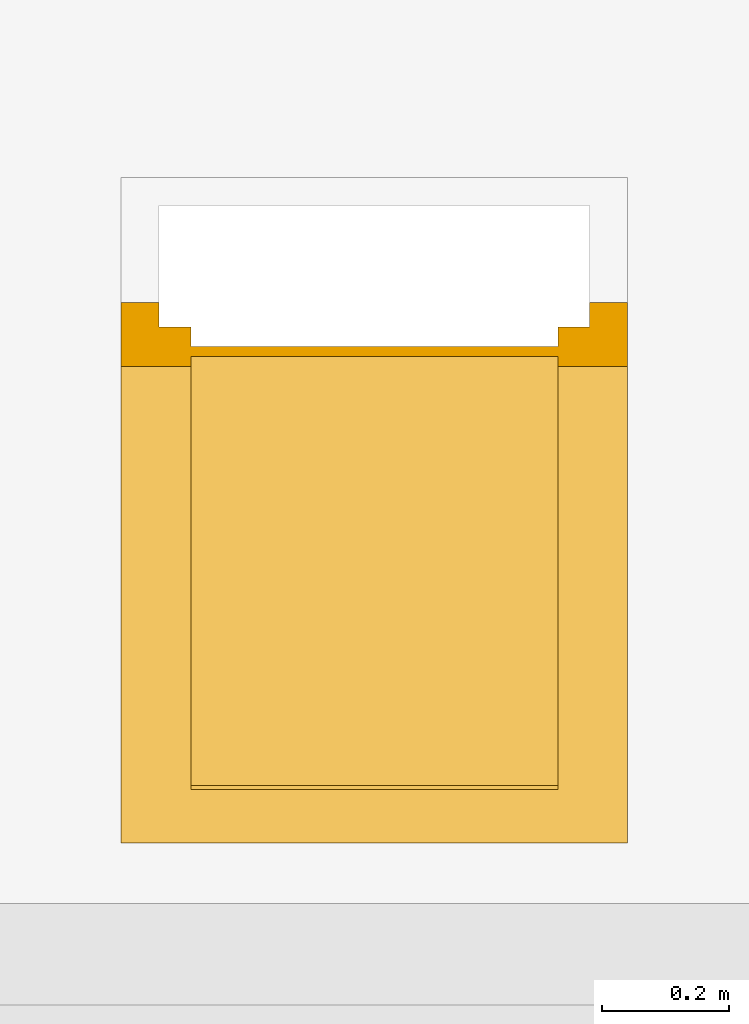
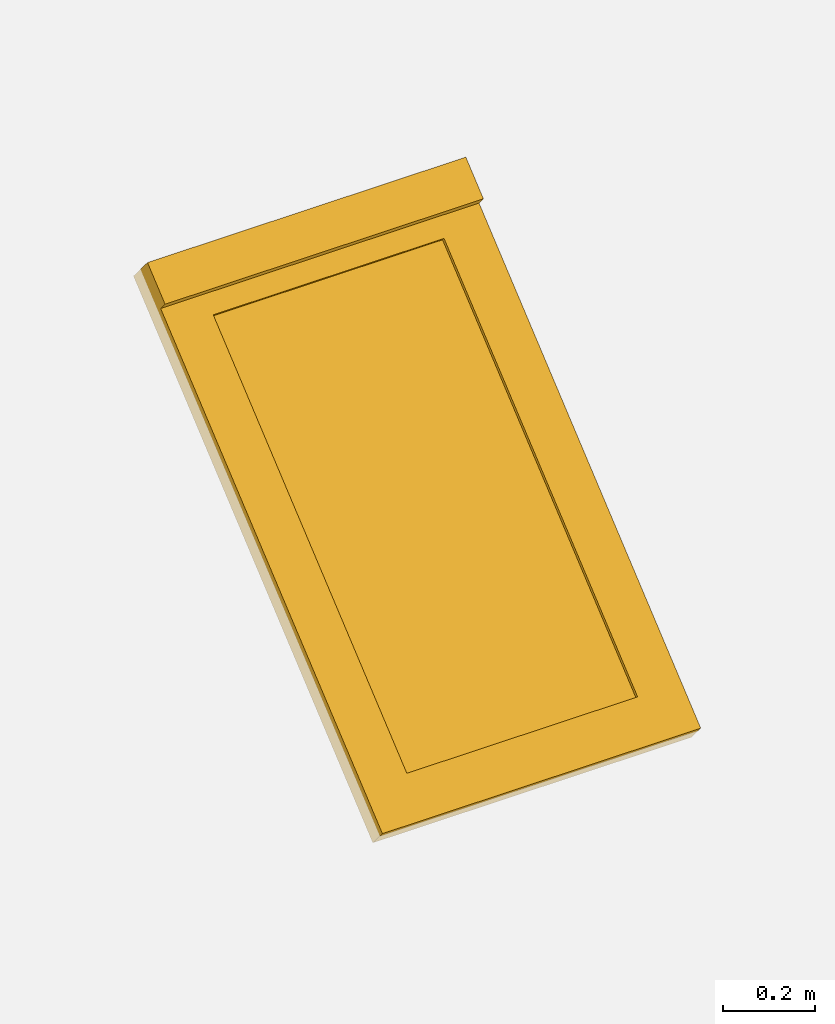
# One storey, part 5 of 5: 1 window.
"""IFC2X3 building model written with IfcOpenShell, lengths in centimetres."""

import ifcopenshell
import ifcopenshell.guid

model = None  # the IFC model being written
_history = None  # IfcOwnerHistory: only IFC2X3 demands one
_inside = {}  # id of a spatial element -> (the spatial element, [elements in it])
_under = {}  # id of a project, library or spatial element -> (it, [spatial elements below it])
_declared = {}  # id of a project -> (the project, [libraries it declares])
_typed = {}  # id of a type object -> (the type object, [elements of that type])
_made_of = {}  # id of a material, layer set ... -> (it, [elements and type objects made of it])


def new_model(schema):
    """Start an empty IFC model of exactly this schema.

    Asked for "IFC4X3", IfcOpenShell would pick the latest addendum, in which some entities
    have other attributes; the version numbers below select the first issue.
    IFC2X3 requires an IfcOwnerHistory on every rooted entity: one is made here for all.
    """
    global model, _history
    if schema == "IFC4X3":
        model = ifcopenshell.file(schema_version=(4, 3, 0, 0))
    else:
        model = ifcopenshell.file(schema=schema)
    _inside.clear()
    _under.clear()
    _declared.clear()
    _typed.clear()
    _made_of.clear()
    _history = None
    if model.schema == "IFC2X3":
        org = make("IfcOrganization", Name="unknown")
        user = make(
            "IfcPersonAndOrganization",
            ThePerson=make("IfcPerson", FamilyName="unknown"),
            TheOrganization=org,
        )
        app = make(
            "IfcApplication",
            ApplicationDeveloper=org,
            Version="unknown",
            ApplicationFullName="unknown",
            ApplicationIdentifier="unknown",
        )
        _history = make(
            "IfcOwnerHistory",
            OwningUser=user,
            OwningApplication=app,
            ChangeAction="ADDED",
            CreationDate=0,
        )
    return model


def make(cls, **values):
    """One entity of the class cls with the attributes given. An attribute that is None is left unset."""
    return model.create_entity(
        cls, **{name: value for name, value in values.items() if value is not None}
    )


def entity(cls, *values):
    """Any entity or typed value of the class cls, its attributes in the order of the schema. None: left unset."""
    e = model.create_entity(cls)
    for i, value in enumerate(values):
        if value is not None:
            e[i] = value
    return e


def rooted(cls, **values):
    """An entity with a GlobalId (a new one), such as an element, a storey or a relation."""
    return make(cls, GlobalId=ifcopenshell.guid.new(), OwnerHistory=_history, **values)


def si_unit(unit_type, name, prefix=None):
    """IfcSIUnit, for example si_unit("LENGTHUNIT", "METRE", prefix="MILLI")."""
    return make("IfcSIUnit", UnitType=unit_type, Prefix=prefix, Name=name)


def converted_unit(unit_type, name, factor, base, dimensions=None, offset=None):
    """IfcConversionBasedUnit, such as the inch: factor (a typed value) times the base unit."""
    return make(
        "IfcConversionBasedUnit"
        if offset is None
        else "IfcConversionBasedUnitWithOffset",
        ConversionOffset=offset,
        Dimensions=None
        if dimensions is None
        else entity("IfcDimensionalExponents", *dimensions),
        UnitType=unit_type,
        Name=name,
        ConversionFactor=make(
            "IfcMeasureWithUnit", ValueComponent=factor, UnitComponent=base
        ),
    )


def derived_unit(unit_type, elements):
    """IfcDerivedUnit: a product of units, each with its exponent."""
    return make(
        "IfcDerivedUnit",
        Elements=[
            make("IfcDerivedUnitElement", Unit=unit, Exponent=power)
            for unit, power in elements
        ],
        UnitType=unit_type,
    )


def assignment(units):
    """IfcUnitAssignment: the units of a project."""
    return None if units is None else make("IfcUnitAssignment", Units=units)


def point(xyz):
    """IfcCartesianPoint."""
    return None if xyz is None else make("IfcCartesianPoint", Coordinates=xyz)


def direction(xyz):
    """IfcDirection."""
    return None if xyz is None else make("IfcDirection", DirectionRatios=xyz)


def frame(location, z_axis=None, x_axis=None):
    """IfcAxis2Placement3D, a coordinate frame: its origin and axes. An axis left out is left unset."""
    return make(
        "IfcAxis2Placement3D",
        Location=point(location),
        Axis=direction(z_axis),
        RefDirection=direction(x_axis),
    )


def origin():
    """The frame at (0, 0, 0) with its axes left unset."""
    return frame((0.0, 0.0, 0.0))


def place(relative_to, where):
    """IfcLocalPlacement: puts the frame where relative to a parent placement (None: the world)."""
    return make(
        "IfcLocalPlacement", PlacementRelTo=relative_to, RelativePlacement=where
    )


def context(
    kind, dimensions, precision=None, world=None, true_north=None, identifier=None
):
    """IfcGeometricRepresentationContext, for example the 3D "Model" context."""
    return make(
        "IfcGeometricRepresentationContext",
        ContextIdentifier=identifier,
        ContextType=kind,
        CoordinateSpaceDimension=dimensions,
        Precision=precision,
        WorldCoordinateSystem=world,
        TrueNorth=true_north,
    )


def subcontext(parent, identifier, kind, view, scale=None):
    """IfcGeometricRepresentationSubContext, for example "Body" below "Model"."""
    return make(
        "IfcGeometricRepresentationSubContext",
        ContextIdentifier=identifier,
        ContextType=kind,
        ParentContext=parent,
        TargetScale=scale,
        TargetView=view,
    )


def project(units=None, contexts=None):
    """IfcProject with its units and contexts."""
    return rooted(
        "IfcProject",
        Name="project",
        RepresentationContexts=contexts,
        UnitsInContext=assignment(units),
    )


def spatial(cls, under=None, at=None, **own):
    """A site, building, storey or space (cls), placed at a placement, below another one or the project."""
    s = rooted(cls, ObjectPlacement=at, **own)
    if under is not None:
        _under.setdefault(under.id(), (under, []))[1].append(s)
    return s


def faces_of(points, faces, orient=None, outer=None):
    """IfcFace entities. A face is a list of loops; a loop is a list of indices into points, from 0.

    orient and outer hold one flag for each loop. By default every Orientation is true, the
    first loop of a face is its IfcFaceOuterBound and the others are IfcFaceBound.
    """
    made = []
    for i, loops in enumerate(faces):
        bounds = []
        for j, loop in enumerate(loops):
            is_outer = j == 0 if outer is None else outer[i][j]
            bounds.append(
                make(
                    "IfcFaceOuterBound" if is_outer else "IfcFaceBound",
                    Bound=make("IfcPolyLoop", Polygon=[points[k] for k in loop]),
                    Orientation=True if orient is None else orient[i][j],
                )
            )
        made.append(make("IfcFace", Bounds=bounds))
    return made


def faceted_brep(points, faces, orient=None, outer=None, voids=None):
    """IfcFacetedBrep: a solid bounded by flat faces; with voids (closed shells), ...WithVoids."""
    shared = [point(p) for p in points]
    hull = make("IfcClosedShell", CfsFaces=faces_of(shared, faces, orient, outer))
    if voids is None:
        return make("IfcFacetedBrep", Outer=hull)
    return make(
        "IfcFacetedBrepWithVoids",
        Outer=hull,
        Voids=[
            make(cls, CfsFaces=faces_of(shared, fs, o, b)) for cls, fs, o, b in voids
        ],
    )


def shape(context_of_items, identifier, shape_type, items):
    """IfcShapeRepresentation: the items that make up one representation, for example the "Body"."""
    return make(
        "IfcShapeRepresentation",
        ContextOfItems=context_of_items,
        RepresentationIdentifier=identifier,
        RepresentationType=shape_type,
        Items=items,
    )


def source(mapping_origin, context_of_items, identifier, shape_type, items):
    """IfcRepresentationMap: a shape defined once, which mapped items show again and again."""
    return make(
        "IfcRepresentationMap",
        MappingOrigin=mapping_origin,
        MappedRepresentation=shape(context_of_items, identifier, shape_type, items),
    )


def transform(
    local_origin,
    x_axis=None,
    y_axis=None,
    z_axis=None,
    scale=None,
    scale2=None,
    scale3=None,
    uniform=True,
):
    """IfcCartesianTransformationOperator3D, or its non-uniform kind. x_axis, y_axis, z_axis: its Axis1, 2, 3."""
    if uniform:
        return make(
            "IfcCartesianTransformationOperator3D",
            Axis1=direction(x_axis),
            Axis2=direction(y_axis),
            LocalOrigin=point(local_origin),
            Scale=scale,
            Axis3=direction(z_axis),
        )
    return make(
        "IfcCartesianTransformationOperator3DnonUniform",
        Axis1=direction(x_axis),
        Axis2=direction(y_axis),
        LocalOrigin=point(local_origin),
        Scale=scale,
        Axis3=direction(z_axis),
        Scale2=scale2,
        Scale3=scale3,
    )


def mapped(mapping_source, mapping_target):
    """IfcMappedItem: shows the shape of a source again, moved by a transform."""
    return make(
        "IfcMappedItem", MappingSource=mapping_source, MappingTarget=mapping_target
    )


def material(Name=None, Category=None):
    """IfcMaterial."""
    return make("IfcMaterial", Name=Name, Category=Category)


def material_list(materials):
    """IfcMaterialList."""
    return make("IfcMaterialList", Materials=materials)


def made_of(thing, what):
    """Note that an element or type object is made of a material, layer set ...; save() writes the relation."""
    if what is not None:
        _made_of.setdefault(what.id(), (what, []))[1].append(thing)
    return thing


def type_object(cls, material=None, **own):
    """A type object (cls), such as IfcWallType, which elements share."""
    return made_of(rooted(cls, **own), material)


def type_shapes(of_type, sources):
    """Give a type object the sources (RepresentationMaps) that its elements show as mapped items."""
    of_type.RepresentationMaps = sources


def element(
    cls,
    number,
    at=None,
    inside=None,
    cuts=None,
    type_object=None,
    material=None,
    context=None,
    identifier="Body",
    shape_type=None,
    held_by="IfcProductDefinitionShape",
    body=None,
    shapes=None,
    **own,
):
    """One element of the class cls, such as IfcWall. Its Tag is "e" and its number.

    at: its placement. inside: the storey or other place that contains it. cuts: it is an
    opening in that element (IfcRelVoidsElement). A single representation is given by context,
    identifier, shape_type and body (its items); several are given by shapes. held_by: the class
    of the entity that holds the representations. save() writes the other relations.
    """
    e = rooted(cls, Tag="e%d" % number, ObjectPlacement=at, **own)
    if body is not None:
        shapes = [shape(context, identifier, shape_type, body)]
    if shapes is not None:
        e.Representation = make(held_by, Representations=shapes)
    if inside is not None:
        _inside.setdefault(inside.id(), (inside, []))[1].append(e)
    if cuts is not None:
        rooted(
            "IfcRelVoidsElement", RelatingBuildingElement=cuts, RelatedOpeningElement=e
        )
    if type_object is not None:
        _typed.setdefault(type_object.id(), (type_object, []))[1].append(e)
    return made_of(e, material)


def aggregate(whole, parts):
    """IfcRelAggregates: a whole, such as a stair, and the parts it consists of."""
    return rooted("IfcRelAggregates", RelatingObject=whole, RelatedObjects=parts)


def save(model, path):
    """Write the relations noted so far, then the file.

    IfcRelAggregates (storeys below a building ...), IfcRelContainedInSpatialStructure (elements
    in a storey), IfcRelDefinesByType, IfcRelAssociatesMaterial and IfcRelDeclares: one each for
    every whole, place, type object, material and project.
    """
    for whole, parts in _under.values():
        aggregate(whole, parts)
    for where, things in _inside.values():
        rooted(
            "IfcRelContainedInSpatialStructure",
            RelatedElements=things,
            RelatingStructure=where,
        )
    for kind, things in _typed.values():
        rooted("IfcRelDefinesByType", RelatedObjects=things, RelatingType=kind)
    for what, things in _made_of.values():
        rooted("IfcRelAssociatesMaterial", RelatedObjects=things, RelatingMaterial=what)
    for by, libraries in _declared.values():
        rooted("IfcRelDeclares", RelatingContext=by, RelatedDefinitions=libraries)
    model.write(path)


model = new_model("IFC2X3")

# Units and contexts
model_context = context("Model", 3, precision=0.001, world=origin(), true_north=direction((6.12303176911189e-17, 1.0)))
body_context = subcontext(model_context, "Body", "Model", "MODEL_VIEW")
ifc_project = project(units=[si_unit("LENGTHUNIT", "METRE", prefix="CENTI"), si_unit("AREAUNIT", "SQUARE_METRE"), si_unit("VOLUMEUNIT", "CUBIC_METRE"), converted_unit("PLANEANGLEUNIT", "DEGREE", entity("IfcRatioMeasure", 0.0174532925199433), si_unit("PLANEANGLEUNIT", "RADIAN"), dimensions=[0, 0, 0, 0, 0, 0, 0]), si_unit("MASSUNIT", "GRAM", prefix="KILO"), derived_unit("MASSDENSITYUNIT", [(si_unit("MASSUNIT", "GRAM", prefix="KILO"), 1), (si_unit("LENGTHUNIT", "METRE"), -3)]), derived_unit("MOMENTOFINERTIAUNIT", [(si_unit("LENGTHUNIT", "METRE"), 4)]), si_unit("TIMEUNIT", "SECOND"), si_unit("FREQUENCYUNIT", "HERTZ"), si_unit("THERMODYNAMICTEMPERATUREUNIT", "DEGREE_CELSIUS"), derived_unit("THERMALTRANSMITTANCEUNIT", [(si_unit("MASSUNIT", "GRAM", prefix="KILO"), 1), (si_unit("THERMODYNAMICTEMPERATUREUNIT", "KELVIN"), -1), (si_unit("TIMEUNIT", "SECOND"), -3)]), derived_unit("VOLUMETRICFLOWRATEUNIT", [(si_unit("LENGTHUNIT", "METRE"), 3), (si_unit("TIMEUNIT", "SECOND"), -1)]), si_unit("ELECTRICCURRENTUNIT", "AMPERE"), si_unit("ELECTRICVOLTAGEUNIT", "VOLT"), si_unit("POWERUNIT", "WATT"), si_unit("FORCEUNIT", "NEWTON", prefix="KILO"), si_unit("ILLUMINANCEUNIT", "LUX"), si_unit("LUMINOUSFLUXUNIT", "LUMEN"), si_unit("LUMINOUSINTENSITYUNIT", "CANDELA"), derived_unit("USERDEFINED", [(si_unit("MASSUNIT", "GRAM", prefix="KILO"), -1), (si_unit("LENGTHUNIT", "METRE"), -2), (si_unit("TIMEUNIT", "SECOND"), 3), (si_unit("LUMINOUSFLUXUNIT", "LUMEN"), 1)]), derived_unit("LINEARVELOCITYUNIT", [(si_unit("LENGTHUNIT", "METRE"), 1), (si_unit("TIMEUNIT", "SECOND"), -1)]), si_unit("PRESSUREUNIT", "PASCAL"), derived_unit("USERDEFINED", [(si_unit("LENGTHUNIT", "METRE"), -2), (si_unit("MASSUNIT", "GRAM", prefix="KILO"), 1), (si_unit("TIMEUNIT", "SECOND"), -2)]), derived_unit("LINEARFORCEUNIT", [(si_unit("MASSUNIT", "GRAM", prefix="KILO"), 1), (si_unit("LENGTHUNIT", "METRE"), 1), (si_unit("TIMEUNIT", "SECOND"), -2), (si_unit("LENGTHUNIT", "METRE"), -1)]), derived_unit("PLANARFORCEUNIT", [(si_unit("MASSUNIT", "GRAM", prefix="KILO"), 1), (si_unit("LENGTHUNIT", "METRE"), 1), (si_unit("TIMEUNIT", "SECOND"), -2), (si_unit("LENGTHUNIT", "METRE"), -2)])], contexts=[model_context])

# Site, building, storey
site_placement = place(None, origin())
site = spatial("IfcSite", under=ifc_project, at=site_placement, Name="Surface", CompositionType="ELEMENT")
building_placement = place(site_placement, origin())
building = spatial("IfcBuilding", under=site, at=building_placement, CompositionType="ELEMENT")
storey_placement = place(building_placement, frame((0.0, 0.0, 365.0)))
storey = spatial("IfcBuildingStorey", under=building, at=storey_placement, Name="3.65_Sablière", CompositionType="ELEMENT", Elevation=365.0)

# Window
ifc_material_1 = material(Name="<Unnamed>")
ifc_material_2 = material(Name="Ardoise")
ifc_material_3 = material(Name="Fenêtre - Vitrage")
ifc_material_list_1 = material_list([ifc_material_1, ifc_material_2, ifc_material_3])
ifc_material_list_2 = material_list([ifc_material_1, ifc_material_2])
window_style = type_object("IfcWindowStyle", Name="Fenêtre de toit:Fenêtre de toit", ConstructionType="NOTDEFINED", OperationType="NOTDEFINED", ParameterTakesPrecedence=False, Sizeable=False, material=ifc_material_list_2)
shared_shape = source(origin(), body_context, "Body", "Brep", [
    faceted_brep([(-27.8705904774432, -58.4829629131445, 407.5), (-27.7499999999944, -58.4330127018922, 407.5), (-27.6464466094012, -58.3535533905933, 407.5), (-27.5669872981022, -58.25, 407.5), (-27.5170370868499, -58.1294095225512, 407.5), (-27.4999999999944, -58.0, 407.5), (-27.4999999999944, -57.0, 407.5), (-27.5170370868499, -56.8705904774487, 407.5), (-27.5669872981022, -56.75, 407.5), (-27.6464466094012, -56.6464466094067, 407.5), (-27.7499999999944, -56.5669872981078, 407.5), (-27.8705904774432, -56.5170370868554, 407.5), (-28.0, -56.5, 407.5), (-28.1294095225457, -56.5170370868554, 407.5), (-28.2499999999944, -56.5669872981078, 407.5), (-28.3535533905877, -56.6464466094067, 407.5), (-28.4330127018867, -56.75, 407.5), (-28.482962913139, -56.8705904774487, 407.5), (-28.4999999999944, -57.0, 407.5), (-28.4999999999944, -58.0, 407.5), (-28.482962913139, -58.1294095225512, 407.5), (-28.4330127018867, -58.25, 407.5), (-28.3535533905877, -58.3535533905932, 407.5), (-28.2499999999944, -58.4330127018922, 407.5), (-28.1294095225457, -58.4829629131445, 407.5), (-28.0, -58.5, 407.5), (-9.08333333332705, -58.4330127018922, 407.5), (-8.97977994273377, -58.3535533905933, 407.5), (-8.90032063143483, -58.25, 407.5), (-8.85037042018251, -58.1294095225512, 407.5), (-8.83333333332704, -58.0, 407.5), (-8.83333333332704, -57.0, 407.5), (-8.85037042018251, -56.8705904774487, 407.5), (-8.90032063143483, -56.75, 407.5), (-8.97977994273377, -56.6464466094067, 407.5), (-9.08333333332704, -56.5669872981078, 407.5), (-9.20392381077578, -56.5170370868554, 407.5), (-9.33333333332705, -56.5, 407.5), (-9.4627428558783, -56.5170370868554, 407.5), (-9.58333333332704, -56.5669872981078, 407.5), (-9.68688672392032, -56.6464466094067, 407.5), (-9.76634603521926, -56.75, 407.5), (-9.81629624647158, -56.8705904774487, 407.5), (-9.83333333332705, -57.0, 407.5), (-9.83333333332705, -58.0, 407.5), (-9.81629624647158, -58.1294095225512, 407.5), (-9.76634603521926, -58.25, 407.5), (-9.68688672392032, -58.3535533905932, 407.5), (-9.58333333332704, -58.4330127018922, 407.5), (-9.4627428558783, -58.4829629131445, 407.5), (-9.33333333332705, -58.5, 407.5), (-9.20392381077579, -58.4829629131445, 407.5), (9.58333333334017, -58.4330127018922, 407.5), (9.68688672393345, -58.3535533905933, 407.5), (9.7663460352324, -58.25, 407.5), (9.81629624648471, -58.1294095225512, 407.5), (9.83333333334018, -58.0, 407.5), (9.83333333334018, -57.0, 407.5), (9.81629624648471, -56.8705904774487, 407.5), (9.7663460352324, -56.75, 407.5), (9.68688672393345, -56.6464466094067, 407.5), (9.58333333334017, -56.5669872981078, 407.5), (9.46274285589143, -56.5170370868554, 407.5), (9.33333333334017, -56.5, 407.5), (9.20392381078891, -56.5170370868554, 407.5), (9.08333333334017, -56.5669872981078, 407.5), (8.9797799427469, -56.6464466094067, 407.5), (8.90032063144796, -56.75, 407.5), (8.85037042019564, -56.8705904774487, 407.5), (8.83333333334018, -57.0, 407.5), (8.83333333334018, -58.0, 407.5), (8.85037042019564, -58.1294095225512, 407.5), (8.90032063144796, -58.25, 407.5), (8.9797799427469, -58.3535533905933, 407.5), (9.08333333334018, -58.4330127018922, 407.5), (9.20392381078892, -58.4829629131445, 407.5), (9.33333333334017, -58.5, 407.5), (9.46274285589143, -58.4829629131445, 407.5), (28.2500000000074, -58.4330127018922, 407.5), (28.3535533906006, -58.3535533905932, 407.5), (28.4330127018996, -58.25, 407.5), (28.4829629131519, -58.1294095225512, 407.5), (28.5000000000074, -58.0, 407.5), (28.5000000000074, -57.0, 407.5), (28.4829629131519, -56.8705904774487, 407.5), (28.4330127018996, -56.75, 407.5), (28.3535533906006, -56.6464466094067, 407.5), (28.2500000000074, -56.5669872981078, 407.5), (28.1294095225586, -56.5170370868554, 407.5), (28.0, -56.5, 407.5), (27.8705904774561, -56.5170370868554, 407.5), (27.7500000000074, -56.5669872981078, 407.5), (27.6464466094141, -56.6464466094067, 407.5), (27.5669872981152, -56.75, 407.5), (27.5170370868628, -56.8705904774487, 407.5), (27.5000000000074, -57.0, 407.5), (27.5000000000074, -58.0, 407.5), (27.5170370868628, -58.1294095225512, 407.5), (27.5669872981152, -58.25, 407.5), (27.6464466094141, -58.3535533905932, 407.5), (27.7500000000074, -58.4330127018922, 407.5), (27.8705904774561, -58.4829629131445, 407.5), (28.0, -58.5, 407.5), (28.1294095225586, -58.4829629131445, 407.5), (-32.4999999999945, -55.8670370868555, 403.37059047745), (-32.4999999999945, -55.9169872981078, 403.250000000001), (-32.4999999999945, -55.9964466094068, 403.146446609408), (-32.4999999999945, -56.1000000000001, 403.066987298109), (-32.4999999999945, -56.2205904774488, 403.017037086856), (-32.4999999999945, -56.3500000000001, 403.0), (-32.4999999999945, -58.6500000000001, 403.0), (-32.4999999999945, -58.7794095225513, 403.017037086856), (-32.4999999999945, -58.9, 403.066987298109), (-32.4999999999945, -59.0035533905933, 403.146446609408), (-32.4999999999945, -59.0830127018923, 403.250000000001), (-32.4999999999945, -59.1329629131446, 403.37059047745), (-32.4999999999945, -59.1500000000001, 403.500000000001), (-32.4999999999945, -59.1329629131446, 403.629409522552), (-32.4999999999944, -59.0830127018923, 403.750000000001), (-32.4999999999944, -59.0035533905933, 403.853553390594), (-32.4999999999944, -58.9, 403.933012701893), (-32.4999999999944, -58.7794095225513, 403.982962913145), (-32.4999999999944, -58.6500000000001, 404.0), (-32.4999999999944, -56.3500000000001, 404.0), (-32.4999999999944, -56.2205904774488, 403.982962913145), (-32.4999999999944, -56.1000000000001, 403.933012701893), (-32.4999999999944, -55.9964466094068, 403.853553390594), (-32.4999999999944, -55.9169872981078, 403.750000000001), (-32.4999999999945, -55.8670370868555, 403.629409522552), (-32.4999999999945, -55.8500000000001, 403.500000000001), (32.5000000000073, -59.0830127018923, 403.25), (32.5000000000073, -59.0035533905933, 403.146446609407), (32.5000000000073, -58.9, 403.066987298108), (32.5000000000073, -58.7794095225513, 403.017037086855), (32.5000000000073, -58.6500000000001, 403.0), (32.5000000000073, -56.35, 403.0), (32.5000000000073, -56.2205904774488, 403.017037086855), (32.5000000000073, -56.1000000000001, 403.066987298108), (32.5000000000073, -55.9964466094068, 403.146446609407), (32.5000000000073, -55.9169872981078, 403.25), (32.5000000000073, -55.8670370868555, 403.370590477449), (32.5000000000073, -55.8500000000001, 403.5), (32.5000000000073, -55.8670370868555, 403.629409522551), (32.5000000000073, -55.9169872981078, 403.75), (32.5000000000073, -55.9964466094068, 403.853553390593), (32.5000000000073, -56.1000000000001, 403.933012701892), (32.5000000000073, -56.2205904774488, 403.982962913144), (32.5000000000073, -56.3500000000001, 404.0), (32.5000000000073, -58.6500000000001, 404.0), (32.5000000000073, -58.7794095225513, 403.982962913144), (32.5000000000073, -58.9, 403.933012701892), (32.5000000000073, -59.0035533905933, 403.853553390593), (32.5000000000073, -59.0830127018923, 403.75), (32.5000000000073, -59.1329629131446, 403.629409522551), (32.5000000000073, -59.1500000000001, 403.5), (32.5000000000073, -59.1329629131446, 403.370590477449), (-24.6923119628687, -56.35, 403.0), (-15.6153780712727, -56.35, 403.0), (-7.17306660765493, -56.35, 403.0), (1.26924485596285, -56.35, 403.0), (9.07693389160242, -56.35, 403.0), (16.884622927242, -56.35, 403.0), (24.6923119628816, -56.3500000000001, 403.0), (24.6923114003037, -58.6500000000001, 403.0), (16.8846228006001, -58.6500000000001, 403.0), (8.44231140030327, -58.6500000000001, 403.0), (0.0, -58.6500000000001, 403.0), (-8.44231140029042, -58.6500000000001, 403.0), (-16.8846228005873, -58.65, 403.0), (-24.6923114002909, -58.6500000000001, 403.0), (14.8366162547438, -59.1500000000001, 403.499999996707), (20.7884665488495, -59.1500000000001, 403.499999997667), (26.6442329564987, -59.1499110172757, 403.490567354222), (-6.37995099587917, -59.1494808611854, 403.477221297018), (-0.582759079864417, -59.1496225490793, 403.519424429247), (-26.6442336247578, -59.1499110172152, 403.509432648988), (-20.7884672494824, -59.1500000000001, 403.499999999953), (-24.6923117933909, -58.6500000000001, 404.0), (-15.6153777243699, -58.6500000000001, 404.0), (9.07693450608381, -58.6500000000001, 404.0), (5.17308950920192, -59.1491810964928, 403.528604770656), (-15.0342529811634, -59.1496235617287, 403.480601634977), (-7.17306614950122, -58.6500000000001, 404.0), (24.692310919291, -58.6500000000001, 404.0), (16.8846227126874, -58.6500000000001, 404.0), (1.26924542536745, -58.6500000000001, 404.0), (-28.1294095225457, -58.4829629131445, 404.0), (-28.2499999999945, -58.4330127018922, 404.0), (-28.0, -58.5, 404.0), (-28.3535533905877, -58.3535533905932, 404.0), (-9.33333333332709, -58.5, 404.0), (-28.4330127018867, -58.25, 404.0), (-28.482962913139, -58.1294095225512, 404.0), (-28.4999999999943, -58.0, 404.0), (-28.4999999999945, -57.0, 404.0), (9.33333333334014, -58.5, 404.0), (28.0, -58.5, 404.0), (28.1294095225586, -58.4829629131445, 404.0), (28.2500000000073, -58.4330127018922, 404.0), (28.3535533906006, -58.3535533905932, 404.0), (28.4330127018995, -58.25, 404.0), (28.4829629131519, -58.1294095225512, 404.0), (28.5000000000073, -58.0, 404.0), (28.5000000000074, -57.0, 404.0), (28.4829629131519, -56.8705904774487, 404.0), (28.4330127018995, -56.75, 404.0), (28.3535533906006, -56.6464466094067, 404.0), (28.2500000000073, -56.5669872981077, 404.0), (28.1294095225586, -56.5170370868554, 404.0), (28.0, -56.5, 404.0), (9.33333333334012, -56.5, 404.0), (24.6923115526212, -56.3500000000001, 404.0), (16.884622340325, -56.3500000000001, 404.0), (8.44231097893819, -56.3500000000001, 404.0), (-3.82448569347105e-07, -56.3500000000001, 404.0), (-8.44231174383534, -56.3500000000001, 404.0), (-16.8846231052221, -56.3500000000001, 404.0), (-24.6923115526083, -56.3500000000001, 404.0), (-28.482962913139, -56.8705904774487, 404.0), (-28.4330127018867, -56.75, 404.0), (-28.3535533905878, -56.6464466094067, 404.0), (-28.2499999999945, -56.5669872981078, 404.0), (-28.1294095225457, -56.5170370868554, 404.0), (-28.0, -56.5, 404.0), (-9.33333333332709, -56.5, 404.0), (9.46274285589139, -56.5170370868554, 404.0), (9.20392381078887, -56.5170370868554, 404.0), (27.8705904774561, -56.5170370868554, 404.0), (9.58333333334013, -56.5669872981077, 404.0), (27.7500000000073, -56.5669872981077, 404.0), (9.68688672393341, -56.6464466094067, 404.0), (27.646446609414, -56.6464466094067, 404.0), (9.76634603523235, -56.75, 404.0), (27.5669872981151, -56.75, 404.0), (9.81629624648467, -56.8705904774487, 404.0), (27.5170370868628, -56.8705904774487, 404.0), (27.5000000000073, -57.0, 404.0), (9.83333333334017, -57.0, 404.0), (27.5000000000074, -58.0, 404.0), (9.83333333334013, -58.0, 404.0), (9.81629624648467, -58.1294095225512, 404.0), (27.5170370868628, -58.1294095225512, 404.0), (27.5669872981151, -58.25, 404.0), (9.76634603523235, -58.25, 404.0), (27.6464466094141, -58.3535533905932, 404.0), (9.68688672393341, -58.3535533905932, 404.0), (27.7500000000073, -58.4330127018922, 404.0), (9.58333333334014, -58.4330127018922, 404.0), (27.8705904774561, -58.4829629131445, 404.0), (9.4627428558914, -58.4829629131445, 404.0), (9.20392381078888, -58.4829629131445, 404.0), (-9.20392381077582, -58.4829629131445, 404.0), (-9.08333333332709, -58.4330127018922, 404.0), (9.08333333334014, -58.4330127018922, 404.0), (-8.97977994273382, -58.3535533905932, 404.0), (8.97977994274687, -58.3535533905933, 404.0), (-8.90032063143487, -58.25, 404.0), (8.90032063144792, -58.25, 404.0), (-8.85037042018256, -58.1294095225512, 404.0), (8.8503704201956, -58.1294095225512, 404.0), (-8.83333333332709, -58.0, 404.0), (8.83333333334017, -58.0, 404.0), (8.83333333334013, -57.0, 404.0), (-8.83333333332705, -57.0, 404.0), (8.8503704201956, -56.8705904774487, 404.0), (-8.85037042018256, -56.8705904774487, 404.0), (8.90032063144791, -56.75, 404.0), (-8.90032063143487, -56.75, 404.0), (8.97977994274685, -56.6464466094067, 404.0), (-8.97977994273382, -56.6464466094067, 404.0), (9.08333333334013, -56.5669872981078, 404.0), (-9.08333333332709, -56.5669872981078, 404.0), (-9.20392381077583, -56.5170370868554, 404.0), (-9.46274285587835, -58.4829629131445, 404.0), (-27.8705904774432, -58.4829629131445, 404.0), (-9.58333333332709, -58.4330127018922, 404.0), (-27.7499999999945, -58.4330127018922, 404.0), (-9.68688672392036, -58.3535533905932, 404.0), (-27.6464466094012, -58.3535533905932, 404.0), (-9.76634603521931, -58.25, 404.0), (-27.5669872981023, -58.25, 404.0), (-9.81629624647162, -58.1294095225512, 404.0), (-27.5170370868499, -58.1294095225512, 404.0), (-27.4999999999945, -58.0, 404.0), (-9.83333333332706, -58.0, 404.0), (-9.83333333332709, -57.0, 404.0), (-27.4999999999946, -57.0, 404.0), (-9.81629624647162, -56.8705904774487, 404.0), (-27.5170370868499, -56.8705904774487, 404.0), (-27.5669872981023, -56.75, 404.0), (-9.76634603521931, -56.75, 404.0), (-27.6464466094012, -56.6464466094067, 404.0), (-9.68688672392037, -56.6464466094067, 404.0), (-27.7499999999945, -56.5669872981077, 404.0), (-9.58333333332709, -56.5669872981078, 404.0), (-27.8705904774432, -56.5170370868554, 404.0), (-9.46274285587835, -56.5170370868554, 404.0), (14.8366161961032, -55.8500000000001, 403.500000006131), (20.7884665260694, -55.8500000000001, 403.500000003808), (26.6442330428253, -55.8500889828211, 403.509432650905), (-6.37995103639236, -55.8505191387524, 403.522778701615), (-0.582759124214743, -55.850377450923, 403.480575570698), (-20.7884672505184, -55.8500000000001, 403.500000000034), (-26.6442336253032, -55.8500889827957, 403.490567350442), (5.17308947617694, -55.8508189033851, 403.471395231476), (-15.0342529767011, -55.8503764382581, 403.519398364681)], [[[0, 1, 2, 3, 4, 5, 6, 7, 8, 9, 10, 11, 12, 13, 14, 15, 16, 17, 18, 19, 20, 21, 22, 23, 24, 25]], [[26, 27, 28, 29, 30, 31, 32, 33, 34, 35, 36, 37, 38, 39, 40, 41, 42, 43, 44, 45, 46, 47, 48, 49, 50, 51]], [[52, 53, 54, 55, 56, 57, 58, 59, 60, 61, 62, 63, 64, 65, 66, 67, 68, 69, 70, 71, 72, 73, 74, 75, 76, 77]], [[78, 79, 80, 81, 82, 83, 84, 85, 86, 87, 88, 89, 90, 91, 92, 93, 94, 95, 96, 97, 98, 99, 100, 101, 102, 103]], [[104, 105, 106, 107, 108, 109, 110, 111, 112, 113, 114, 115, 116, 117, 118, 119, 120, 121, 122, 123, 124, 125, 126, 127, 128, 129]], [[130, 131, 132, 133, 134, 135, 136, 137, 138, 139, 140, 141, 142, 143, 144, 145, 146, 147, 148, 149, 150, 151, 152, 153, 154, 155]], [[110, 109, 156, 157, 158, 159, 160, 161, 162, 135, 134, 163, 164, 165, 166, 167, 168, 169]], [[170, 165, 164, 163, 171]], [[172, 154, 153]], [[173, 166, 174]], [[151, 172, 152]], [[172, 155, 154]], [[175, 176, 177]], [[176, 178, 177]], [[179, 180, 170]], [[172, 151, 150]], [[132, 172, 163]], [[180, 174, 166]], [[132, 163, 133]], [[176, 181, 178]], [[163, 134, 133]], [[111, 110, 169]], [[169, 112, 111]], [[176, 168, 181]], [[181, 182, 178]], [[180, 166, 165]], [[168, 176, 169]], [[121, 177, 122]], [[149, 148, 183]], [[119, 118, 175]], [[183, 172, 150]], [[170, 180, 165]], [[163, 172, 171]], [[120, 119, 175]], [[171, 183, 184, 179, 170]], [[130, 155, 172]], [[169, 176, 175]], [[131, 172, 132]], [[175, 118, 117]], [[183, 171, 172]], [[112, 175, 113]], [[112, 169, 175]], [[150, 149, 183]], [[172, 131, 130]], [[175, 117, 116]], [[180, 179, 185]], [[113, 175, 114]], [[120, 177, 121]], [[175, 115, 114]], [[152, 172, 153]], [[175, 116, 115]], [[180, 185, 174]], [[120, 175, 177]], [[185, 182, 174]], [[173, 174, 182]], [[168, 167, 181]], [[181, 167, 173]], [[181, 173, 182]], [[166, 173, 167]], [[122, 186, 187]], [[186, 122, 188]], [[122, 187, 189]], [[122, 190, 188]], [[191, 122, 189]], [[191, 192, 122]], [[192, 193, 122]], [[122, 193, 194]], [[122, 195, 190]], [[194, 123, 122]], [[195, 122, 177]], [[195, 177, 178]], [[195, 178, 182]], [[195, 182, 185]], [[195, 185, 179]], [[195, 179, 184]], [[195, 184, 183]], [[195, 183, 148]], [[196, 195, 148]], [[148, 197, 196]], [[197, 148, 198]], [[199, 198, 148]], [[148, 200, 199]], [[200, 148, 201]], [[202, 201, 148]], [[148, 203, 202]], [[203, 148, 147]], [[204, 203, 147]], [[204, 147, 205]], [[206, 205, 147]], [[207, 206, 147]], [[147, 208, 207]], [[208, 147, 209]], [[209, 147, 210]], [[210, 147, 211]], [[210, 211, 212]], [[210, 212, 213]], [[210, 213, 214]], [[210, 214, 215]], [[210, 215, 216]], [[210, 216, 217]], [[210, 217, 123]], [[194, 218, 123]], [[218, 219, 123]], [[220, 123, 219]], [[123, 220, 221]], [[123, 221, 222]], [[222, 223, 123]], [[123, 223, 224]], [[123, 224, 210]], [[210, 225, 209]], [[226, 210, 224]], [[227, 209, 225]], [[228, 227, 225]], [[229, 227, 228]], [[228, 230, 229]], [[231, 229, 230]], [[232, 231, 230]], [[233, 231, 232]], [[232, 234, 233]], [[235, 233, 234]], [[236, 235, 234]], [[234, 237, 236]], [[238, 236, 237]], [[237, 239, 238]], [[239, 240, 238]], [[241, 238, 240]], [[242, 241, 240]], [[243, 242, 240]], [[242, 243, 244]], [[245, 244, 243]], [[246, 244, 245]], [[245, 247, 246]], [[248, 246, 247]], [[247, 249, 248]], [[195, 196, 249]], [[196, 248, 249]], [[195, 250, 190]], [[251, 190, 250]], [[251, 250, 252]], [[250, 253, 252]], [[254, 252, 253]], [[253, 255, 254]], [[254, 255, 256]], [[257, 256, 255]], [[256, 257, 258]], [[257, 259, 258]], [[260, 258, 259]], [[259, 261, 260]], [[261, 262, 260]], [[260, 262, 263]], [[262, 264, 263]], [[265, 263, 264]], [[264, 266, 265]], [[265, 266, 267]], [[266, 268, 267]], [[267, 268, 269]], [[268, 270, 269]], [[271, 269, 270]], [[270, 226, 271]], [[271, 226, 272]], [[273, 188, 190]], [[274, 188, 273]], [[274, 273, 275]], [[276, 274, 275]], [[277, 276, 275]], [[276, 277, 278]], [[279, 278, 277]], [[278, 279, 280]], [[279, 281, 280]], [[282, 280, 281]], [[283, 282, 281]], [[283, 281, 284]], [[285, 283, 284]], [[286, 283, 285]], [[286, 285, 287]], [[288, 286, 287]], [[289, 288, 287]], [[287, 290, 289]], [[291, 289, 290]], [[290, 292, 291]], [[291, 292, 293]], [[294, 293, 292]], [[295, 293, 294]], [[296, 295, 294]], [[295, 296, 223]], [[224, 223, 296]], [[224, 272, 226]], [[297, 213, 212, 298]], [[299, 141, 140]], [[300, 214, 301]], [[138, 299, 139]], [[302, 157, 156]], [[297, 298, 161, 160]], [[303, 302, 156]], [[160, 304, 297]], [[299, 138, 137]], [[145, 299, 211]], [[304, 301, 214]], [[145, 211, 146]], [[302, 305, 157]], [[302, 216, 305]], [[217, 125, 124]], [[304, 160, 159]], [[305, 158, 157]], [[304, 214, 213]], [[216, 302, 217]], [[108, 156, 109]], [[136, 135, 162]], [[211, 147, 146]], [[124, 123, 217]], [[162, 299, 137]], [[297, 304, 213]], [[211, 299, 298]], [[107, 106, 303]], [[143, 142, 299]], [[303, 125, 217]], [[144, 299, 145]], [[299, 142, 141]], [[105, 104, 303]], [[217, 302, 303]], [[211, 298, 212]], [[162, 298, 299]], [[303, 126, 125]], [[162, 137, 136]], [[139, 299, 140]], [[107, 156, 108]], [[161, 298, 162]], [[303, 104, 129]], [[127, 126, 303]], [[299, 144, 143]], [[303, 128, 127]], [[106, 105, 303]], [[303, 129, 128]], [[304, 159, 301]], [[107, 303, 156]], [[159, 158, 301]], [[300, 301, 158]], [[216, 215, 305]], [[305, 215, 300]], [[305, 300, 158]], [[214, 300, 215]], [[202, 203, 83, 82]], [[81, 201, 202, 82]], [[80, 200, 201, 81]], [[198, 199, 79, 78]], [[80, 79, 199, 200]], [[197, 198, 78, 103]], [[196, 197, 103, 102]], [[101, 248, 196, 102]], [[100, 246, 248, 101]], [[242, 244, 99, 98]], [[100, 99, 244, 246]], [[241, 242, 98, 97]], [[238, 241, 97, 96]], [[236, 238, 96, 95]], [[94, 235, 236, 95]], [[93, 233, 235, 94]], [[229, 231, 92, 91]], [[93, 92, 231, 233]], [[227, 229, 91, 90]], [[209, 227, 90, 89]], [[88, 208, 209, 89]], [[87, 207, 208, 88]], [[205, 206, 86, 85]], [[87, 86, 206, 207]], [[204, 205, 85, 84]], [[203, 204, 84, 83]], [[239, 237, 57, 56]], [[55, 240, 239, 56]], [[54, 243, 240, 55]], [[247, 245, 53, 52]], [[54, 53, 245, 243]], [[249, 247, 52, 77]], [[195, 249, 77, 76]], [[75, 250, 195, 76]], [[74, 253, 250, 75]], [[257, 255, 73, 72]], [[74, 73, 255, 253]], [[259, 257, 72, 71]], [[261, 259, 71, 70]], [[262, 261, 70, 69]], [[68, 264, 262, 69]], [[67, 266, 264, 68]], [[270, 268, 66, 65]], [[67, 66, 268, 266]], [[226, 270, 65, 64]], [[210, 226, 64, 63]], [[62, 225, 210, 63]], [[61, 228, 225, 62]], [[232, 230, 60, 59]], [[61, 60, 230, 228]], [[234, 232, 59, 58]], [[237, 234, 58, 57]], [[260, 263, 31, 30]], [[29, 258, 260, 30]], [[28, 256, 258, 29]], [[252, 254, 27, 26]], [[28, 27, 254, 256]], [[251, 252, 26, 51]], [[190, 251, 51, 50]], [[49, 273, 190, 50]], [[48, 275, 273, 49]], [[279, 277, 47, 46]], [[48, 47, 277, 275]], [[281, 279, 46, 45]], [[284, 281, 45, 44]], [[285, 284, 44, 43]], [[42, 287, 285, 43]], [[41, 290, 287, 42]], [[294, 292, 40, 39]], [[41, 40, 292, 290]], [[296, 294, 39, 38]], [[224, 296, 38, 37]], [[36, 272, 224, 37]], [[35, 271, 272, 36]], [[267, 269, 34, 33]], [[35, 34, 269, 271]], [[265, 267, 33, 32]], [[263, 265, 32, 31]], [[283, 286, 6, 5]], [[4, 282, 283, 5]], [[3, 280, 282, 4]], [[276, 278, 2, 1]], [[3, 2, 278, 280]], [[274, 276, 1, 0]], [[188, 274, 0, 25]], [[24, 186, 188, 25]], [[23, 187, 186, 24]], [[191, 189, 22, 21]], [[23, 22, 189, 187]], [[192, 191, 21, 20]], [[193, 192, 20, 19]], [[194, 193, 19, 18]], [[17, 218, 194, 18]], [[16, 219, 218, 17]], [[221, 220, 15, 14]], [[16, 15, 220, 219]], [[222, 221, 14, 13]], [[223, 222, 13, 12]], [[11, 295, 223, 12]], [[10, 293, 295, 11]], [[289, 291, 9, 8]], [[10, 9, 291, 293]], [[288, 289, 8, 7]], [[286, 288, 7, 6]]]),
    faceted_brep([(40.0, 66.0, 411.499999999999), (-40.0, 66.0, 411.5), (-40.0, -60.0, 411.5), (-34.0, -60.0, 411.5), (-34.0, 60.0, 411.5), (34.0, 60.0, 411.499999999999), (34.0, -60.0, 411.499999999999), (40.0, -60.0, 411.499999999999), (40.0, -70.0, 405.0), (-40.0, -70.0, 405.0), (-40.0, 66.0, 405.0), (40.0, 66.0, 405.0), (-34.0, -60.0, 405.0), (34.0, -60.0, 405.0), (34.0, 60.0, 405.0), (-34.0, 60.0, 405.0), (40.0, -60.0, 414.499999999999), (40.0, -70.0, 414.499999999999), (-40.0, -70.0, 414.5), (-40.0, -60.0, 414.5)], [[[0, 1, 2, 3, 4, 5, 6, 7]], [[8, 9, 10, 11], [12, 13, 14, 15]], [[8, 11, 0, 7, 16, 17]], [[1, 0, 11, 10]], [[10, 9, 18, 19, 2, 1]], [[18, 9, 8, 17]], [[4, 3, 12, 15]], [[5, 4, 15, 14]], [[6, 5, 14, 13]], [[13, 12, 3, 2, 19, 16, 7, 6]], [[19, 18, 17, 16]]]),
    faceted_brep([(29.0, -55.0, 410.5), (29.0, 55.0, 410.5), (-29.0, 55.0, 410.5), (-29.0, -55.0, 410.5), (29.0, -55.0, 409.5), (-29.0, -55.0, 409.5), (-29.0, 55.0, 409.5), (29.0, 55.0, 409.5)], [[[0, 1, 2, 3]], [[4, 5, 6, 7]], [[1, 0, 4, 7]], [[2, 1, 7, 6]], [[3, 2, 6, 5]], [[0, 3, 5, 4]]]),
    faceted_brep([(-34.0, -60.0, 411.5), (34.0, -60.0, 411.5), (34.0, 60.0, 411.5), (-34.0, 60.0, 411.5), (-29.0, 55.0, 411.5), (29.0, 55.0, 411.5), (29.0, -55.0, 411.5), (-29.0, -55.0, 411.5), (-34.0, -60.0, 407.5), (-34.0, 60.0, 407.5), (34.0, 60.0, 407.5), (34.0, -60.0, 407.5), (-29.0, 55.0, 407.5), (-29.0, -55.0, 407.5), (29.0, -55.0, 407.5), (29.0, 55.0, 407.5)], [[[0, 1, 2, 3], [4, 5, 6, 7]], [[8, 9, 10, 11], [12, 13, 14, 15]], [[1, 0, 8, 11]], [[2, 1, 11, 10]], [[3, 2, 10, 9]], [[0, 3, 9, 8]], [[5, 4, 12, 15]], [[6, 5, 15, 14]], [[7, 6, 14, 13]], [[4, 7, 13, 12]]]),
])
type_shapes(window_style, [shared_shape])
window_placement = place(storey_placement, frame((-1152.17726031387, 481.659546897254, -215.795183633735), z_axis=(0.0, -0.642787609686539, 0.766044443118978), x_axis=(-1.0, 0.0, 0.0)))
element("IfcWindow", 1, at=window_placement, inside=storey, type_object=window_style, material=ifc_material_list_1, Name="Fenêtre de toit:Fenêtre de toit", ObjectType="Fenêtre de toit:Fenêtre de toit", OverallHeight=14.4999999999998, OverallWidth=80.0000000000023, context=body_context, shape_type="MappedRepresentation", body=[
    mapped(shared_shape, transform((0.0, 0.0, 0.0), scale=1.0)),
])

save(model, "model.ifc")
